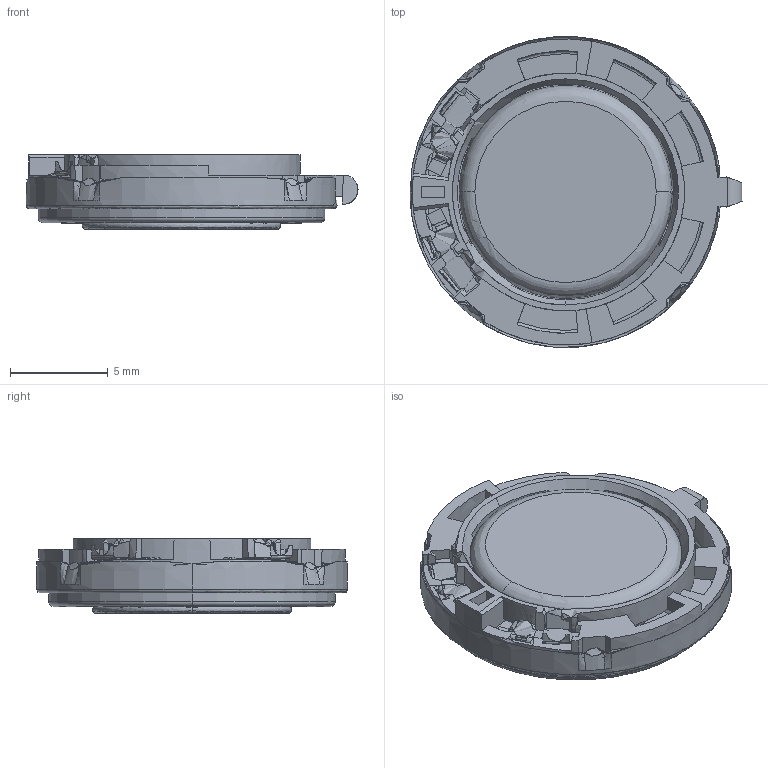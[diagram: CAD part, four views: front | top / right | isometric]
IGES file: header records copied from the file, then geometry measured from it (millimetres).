
Start section:  PTC IGES file: speaker-16d-pss_prt.igs
Global section: file name: speaker-16d-pss_prt.igs; native system: Pro/ENGINEER by Parametric Technology Corporation; preprocessor: 2006170; author: GRA; organization: Unknown; date: 20080630.105211; units: inch
Bounding box: 17.02 x 15.95 x 3.85 mm (x, y, z)
Surface area: 1296.9 mm2 (no closed solid volume)
Topology: 0 solids, 0 shells, 420 faces, 2241 edges, 2238 vertices
Faces by surface type: bspline 268, revolution 152
